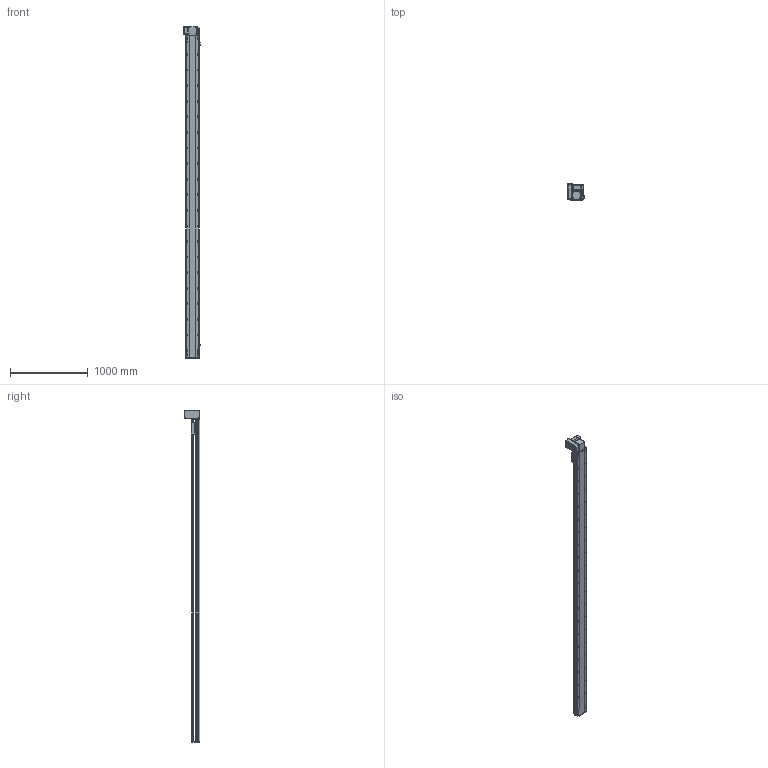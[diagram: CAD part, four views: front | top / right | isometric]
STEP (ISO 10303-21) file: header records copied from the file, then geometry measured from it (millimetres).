
FILE_DESCRIPTION (( 'STEP AP214' ), '1' );
FILE_NAME ('RTB17S-XX-3850-LW-M75-C4.STEP', '2025-12-12T01:25:03', ( '' ), ( '' ), 'SwSTEP 2.0', 'SolidWorks 2018', '' );
FILE_SCHEMA (( 'AUTOMOTIVE_DESIGN' ));
Length unit declared in the file: millimetre
Products named in the file (15): RTB17S-L-014-T20-P75--々湍釱^RTB17S-LW-々湍釱蚾饜-750W_RTB17S-XX-XX-LW-M75-C4; RTB17S-L-001-耜醱啣^RTB17S-XX-XX-LW-M75-C4; RTB17S-L-007奻裔^RTB17S-XX-XX-LW-M75-C4; RTB17S-賑釱^RTB17S-XX-XX-LW-M75-C4; 750W萇儂^RTB17S-XX-XX-LW-M75-C4; EE672^RTB17S-XX-XX-LW-M75-C4; RTB17S-LW-々湍釱蚾饜-750W^RTB17S-XX-XX-LW-M75-C4; RTB22S-GY-018P^RTB17S-LW-々湍釱蚾饜-750W_RTB17S-XX-XX-LW-M75-C4; RTH13-BL-012覜茼え俋离^RTB17S-賑釱_RTB17S-XX-XX-LW-M75-C4; RTB17-R-011菁釱^RTB17S-XX-XX-LW-M75-C4; RTB22S-GY-008-M75--萇儂啣^RTB17S-LW-々湍釱蚾饜-750W_RTB17S-XX-XX-LW-M75-C4; RTB17S-L-004-賑釱^RTB17S-賑釱_RTB17S-XX-XX-LW-M75-C4; RTB17S-XX-3850-LW-M75-C4; RTB22S-GY-005P^RTB17S-LW-々湍釱蚾饜-750W_RTB17S-XX-XX-LW-M75-C4; RTB22S-GY-017P^RTB17S-LW-々湍釱蚾饜-750W_RTB17S-XX-XX-LW-M75-C4
Assembly tree (17 placements, depth 3):
  RTB17S-XX-3850-LW-M75-C4
    RTB17-R-011菁釱^RTB17S-XX-XX-LW-M75-C4
    EE672^RTB17S-XX-XX-LW-M75-C4  x3
    RTB17S-L-001-耜醱啣^RTB17S-XX-XX-LW-M75-C4
    RTB17S-賑釱^RTB17S-XX-XX-LW-M75-C4
      RTB17S-L-004-賑釱^RTB17S-賑釱_RTB17S-XX-XX-LW-M75-C4
      RTH13-BL-012覜茼え俋离^RTB17S-賑釱_RTB17S-XX-XX-LW-M75-C4
    RTB17S-L-007奻裔^RTB17S-XX-XX-LW-M75-C4
    750W萇儂^RTB17S-XX-XX-LW-M75-C4
    RTB17S-LW-々湍釱蚾饜-750W^RTB17S-XX-XX-LW-M75-C4
      RTB17S-L-014-T20-P75--々湍釱^RTB17S-LW-々湍釱蚾饜-750W_RTB17S-XX-XX-LW-M75-C4
      RTB22S-GY-005P^RTB17S-LW-々湍釱蚾饜-750W_RTB17S-XX-XX-LW-M75-C4
      RTB22S-GY-017P^RTB17S-LW-々湍釱蚾饜-750W_RTB17S-XX-XX-LW-M75-C4  x2
      RTB22S-GY-008-M75--萇儂啣^RTB17S-LW-々湍釱蚾饜-750W_RTB17S-XX-XX-LW-M75-C4
      RTB22S-GY-018P^RTB17S-LW-々湍釱蚾饜-750W_RTB17S-XX-XX-LW-M75-C4
Bounding box: 210.4 x 201.5 x 4257.5 mm (x, y, z)
Volume: 30011699.6 mm3; surface area: 5573456 mm2
Topology: 17 solids, 17 shells, 2329 faces, 6592 edges, 4274 vertices
Faces by surface type: plane 1000, cylinder 913, bspline 294, cone 110, sphere 8, torus 4
Entity records: 69622 total; most frequent: CARTESIAN_POINT 20856, ORIENTED_EDGE 10028, DIRECTION 9212, EDGE_CURVE 5014, AXIS2_PLACEMENT_3D 3294, VERTEX_POINT 3278, LINE 2624, VECTOR 2624
